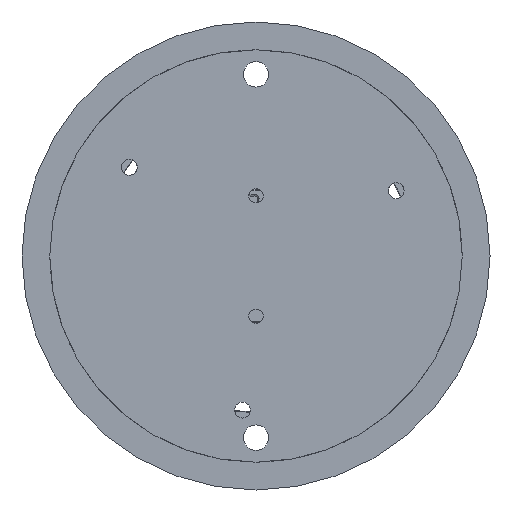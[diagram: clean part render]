
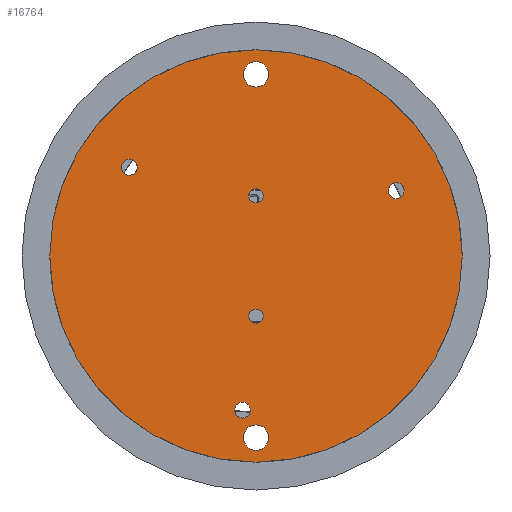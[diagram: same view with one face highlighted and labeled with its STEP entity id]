
A CAD part, front view. The second image highlights one B-rep face of the part: STEP entity #16764.
In plain terms, the highlighted planar face has unit normal (0, -1, 0).
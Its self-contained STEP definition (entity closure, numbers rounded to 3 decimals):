
#1=CARTESIAN_POINT('',(0.,0.,0.));
#2=DIRECTION('',(0.,1.,0.));
#3=DIRECTION('',(-1.,0.,0.));
#4=AXIS2_PLACEMENT_3D('',#1,#2,#3);
#6=CARTESIAN_POINT('',(0.,0.,0.));
#7=DIRECTION('',(0.,1.,0.));
#8=DIRECTION('',(1.,0.,0.));
#9=AXIS2_PLACEMENT_3D('',#6,#7,#8);
#11=CARTESIAN_POINT('',(0.,0.,7.59));
#12=DIRECTION('',(0.,-1.,0.));
#13=DIRECTION('',(1.,0.,0.));
#14=AXIS2_PLACEMENT_3D('',#11,#12,#13);
#16=CARTESIAN_POINT('',(0.,0.,7.59));
#17=DIRECTION('',(0.,-1.,0.));
#18=DIRECTION('',(-1.,0.,0.));
#19=AXIS2_PLACEMENT_3D('',#16,#17,#18);
#21=CARTESIAN_POINT('',(0.,0.,-7.59));
#22=DIRECTION('',(0.,-1.,0.));
#23=DIRECTION('',(1.,0.,0.));
#24=AXIS2_PLACEMENT_3D('',#21,#22,#23);
#26=CARTESIAN_POINT('',(0.,0.,-7.59));
#27=DIRECTION('',(0.,-1.,0.));
#28=DIRECTION('',(-1.,0.,0.));
#29=AXIS2_PLACEMENT_3D('',#26,#27,#28);
#31=CARTESIAN_POINT('',(0.,0.,-22.9));
#32=DIRECTION('',(0.,-1.,0.));
#33=DIRECTION('',(0.,0.,-1.));
#34=AXIS2_PLACEMENT_3D('',#31,#32,#33);
#36=CARTESIAN_POINT('',(0.,0.,-22.9));
#37=DIRECTION('',(0.,-1.,0.));
#38=DIRECTION('',(0.,0.,1.));
#39=AXIS2_PLACEMENT_3D('',#36,#37,#38);
#41=CARTESIAN_POINT('',(0.,0.,22.9));
#42=DIRECTION('',(0.,-1.,0.));
#43=DIRECTION('',(0.,0.,-1.));
#44=AXIS2_PLACEMENT_3D('',#41,#42,#43);
#46=CARTESIAN_POINT('',(0.,0.,22.9));
#47=DIRECTION('',(0.,-1.,0.));
#48=DIRECTION('',(0.,0.,1.));
#49=AXIS2_PLACEMENT_3D('',#46,#47,#48);
#51=CARTESIAN_POINT('',(17.673,0.,8.241));
#52=DIRECTION('',(0.,-1.,0.));
#53=DIRECTION('',(0.,0.,1.));
#54=AXIS2_PLACEMENT_3D('',#51,#52,#53);
#56=CARTESIAN_POINT('',(17.673,0.,8.241));
#57=DIRECTION('',(0.,-1.,0.));
#58=DIRECTION('',(0.,0.,-1.));
#59=AXIS2_PLACEMENT_3D('',#56,#57,#58);
#61=CARTESIAN_POINT('',(-1.7,0.,-19.426));
#62=DIRECTION('',(0.,-1.,0.));
#63=DIRECTION('',(0.,0.,-1.));
#64=AXIS2_PLACEMENT_3D('',#61,#62,#63);
#66=CARTESIAN_POINT('',(-1.7,0.,-19.426));
#67=DIRECTION('',(0.,-1.,0.));
#68=DIRECTION('',(0.,0.,1.));
#69=AXIS2_PLACEMENT_3D('',#66,#67,#68);
#71=CARTESIAN_POINT('',(-15.973,0.,11.185));
#72=DIRECTION('',(0.,-1.,0.));
#73=DIRECTION('',(0.,0.,1.));
#74=AXIS2_PLACEMENT_3D('',#71,#72,#73);
#76=CARTESIAN_POINT('',(-15.973,0.,11.185));
#77=DIRECTION('',(0.,-1.,0.));
#78=DIRECTION('',(0.,0.,-1.));
#79=AXIS2_PLACEMENT_3D('',#76,#77,#78);
#14692=CARTESIAN_POINT('',(-26.,0.,0.));
#14693=CARTESIAN_POINT('',(26.,0.,0.));
#14694=VERTEX_POINT('',#14692);
#14695=VERTEX_POINT('',#14693);
#14696=CARTESIAN_POINT('',(0.9,0.,7.59));
#14697=CARTESIAN_POINT('',(-0.9,0.,7.59));
#14698=VERTEX_POINT('',#14696);
#14699=VERTEX_POINT('',#14697);
#14700=CARTESIAN_POINT('',(0.9,0.,-7.59));
#14701=CARTESIAN_POINT('',(-0.9,0.,-7.59));
#14702=VERTEX_POINT('',#14700);
#14703=VERTEX_POINT('',#14701);
#16590=CARTESIAN_POINT('',(0.,0.,-24.5));
#16591=CARTESIAN_POINT('',(0.,0.,-21.3));
#16592=VERTEX_POINT('',#16590);
#16593=VERTEX_POINT('',#16591);
#16594=CARTESIAN_POINT('',(0.,0.,21.3));
#16595=CARTESIAN_POINT('',(0.,0.,24.5));
#16596=VERTEX_POINT('',#16594);
#16597=VERTEX_POINT('',#16595);
#16650=CARTESIAN_POINT('',(17.673,0.,9.241));
#16651=CARTESIAN_POINT('',(17.673,0.,7.241));
#16652=VERTEX_POINT('',#16650);
#16653=VERTEX_POINT('',#16651);
#16654=CARTESIAN_POINT('',(-1.7,0.,-20.426));
#16655=CARTESIAN_POINT('',(-1.7,0.,-18.426));
#16656=VERTEX_POINT('',#16654);
#16657=VERTEX_POINT('',#16655);
#16658=CARTESIAN_POINT('',(-15.973,0.,12.185));
#16659=CARTESIAN_POINT('',(-15.973,0.,10.185));
#16660=VERTEX_POINT('',#16658);
#16661=VERTEX_POINT('',#16659);
#16711=CARTESIAN_POINT('',(0.,0.,0.));
#16712=DIRECTION('',(0.,1.,0.));
#16713=DIRECTION('',(1.,0.,0.));
#16714=AXIS2_PLACEMENT_3D('',#16711,#16712,#16713);
#16715=PLANE('',#16714);
#16717=ORIENTED_EDGE('',*,*,#16716,.T.);
#16719=ORIENTED_EDGE('',*,*,#16718,.T.);
#16720=EDGE_LOOP('',(#16717,#16719));
#16721=FACE_OUTER_BOUND('',#16720,.F.);
#16723=ORIENTED_EDGE('',*,*,#16722,.T.);
#16725=ORIENTED_EDGE('',*,*,#16724,.T.);
#16726=EDGE_LOOP('',(#16723,#16725));
#16727=FACE_BOUND('',#16726,.F.);
#16729=ORIENTED_EDGE('',*,*,#16728,.T.);
#16731=ORIENTED_EDGE('',*,*,#16730,.T.);
#16732=EDGE_LOOP('',(#16729,#16731));
#16733=FACE_BOUND('',#16732,.F.);
#16735=ORIENTED_EDGE('',*,*,#16734,.T.);
#16737=ORIENTED_EDGE('',*,*,#16736,.T.);
#16738=EDGE_LOOP('',(#16735,#16737));
#16739=FACE_BOUND('',#16738,.F.);
#16741=ORIENTED_EDGE('',*,*,#16740,.T.);
#16743=ORIENTED_EDGE('',*,*,#16742,.T.);
#16744=EDGE_LOOP('',(#16741,#16743));
#16745=FACE_BOUND('',#16744,.F.);
#16747=ORIENTED_EDGE('',*,*,#16746,.T.);
#16749=ORIENTED_EDGE('',*,*,#16748,.T.);
#16750=EDGE_LOOP('',(#16747,#16749));
#16751=FACE_BOUND('',#16750,.F.);
#16753=ORIENTED_EDGE('',*,*,#16752,.T.);
#16755=ORIENTED_EDGE('',*,*,#16754,.T.);
#16756=EDGE_LOOP('',(#16753,#16755));
#16757=FACE_BOUND('',#16756,.F.);
#16759=ORIENTED_EDGE('',*,*,#16758,.T.);
#16761=ORIENTED_EDGE('',*,*,#16760,.T.);
#16762=EDGE_LOOP('',(#16759,#16761));
#16763=FACE_BOUND('',#16762,.F.);
#16764=ADVANCED_FACE('',(#16721,#16727,#16733,#16739,#16745,#16751,#16757,
#16763),#16715,.F.);
#5=CIRCLE('',#4,26.);
#10=CIRCLE('',#9,26.);
#15=CIRCLE('',#14,0.9);
#20=CIRCLE('',#19,0.9);
#25=CIRCLE('',#24,0.9);
#30=CIRCLE('',#29,0.9);
#35=CIRCLE('',#34,1.6);
#40=CIRCLE('',#39,1.6);
#45=CIRCLE('',#44,1.6);
#50=CIRCLE('',#49,1.6);
#55=CIRCLE('',#54,1.);
#60=CIRCLE('',#59,1.);
#65=CIRCLE('',#64,1.);
#70=CIRCLE('',#69,1.);
#75=CIRCLE('',#74,1.);
#80=CIRCLE('',#79,1.);
#16716=EDGE_CURVE('',#14694,#14695,#5,.T.);
#16718=EDGE_CURVE('',#14695,#14694,#10,.T.);
#16722=EDGE_CURVE('',#14698,#14699,#15,.T.);
#16724=EDGE_CURVE('',#14699,#14698,#20,.T.);
#16728=EDGE_CURVE('',#14702,#14703,#25,.T.);
#16730=EDGE_CURVE('',#14703,#14702,#30,.T.);
#16734=EDGE_CURVE('',#16592,#16593,#35,.T.);
#16736=EDGE_CURVE('',#16593,#16592,#40,.T.);
#16740=EDGE_CURVE('',#16596,#16597,#45,.T.);
#16742=EDGE_CURVE('',#16597,#16596,#50,.T.);
#16746=EDGE_CURVE('',#16652,#16653,#55,.T.);
#16748=EDGE_CURVE('',#16653,#16652,#60,.T.);
#16752=EDGE_CURVE('',#16656,#16657,#65,.T.);
#16754=EDGE_CURVE('',#16657,#16656,#70,.T.);
#16758=EDGE_CURVE('',#16660,#16661,#75,.T.);
#16760=EDGE_CURVE('',#16661,#16660,#80,.T.);
